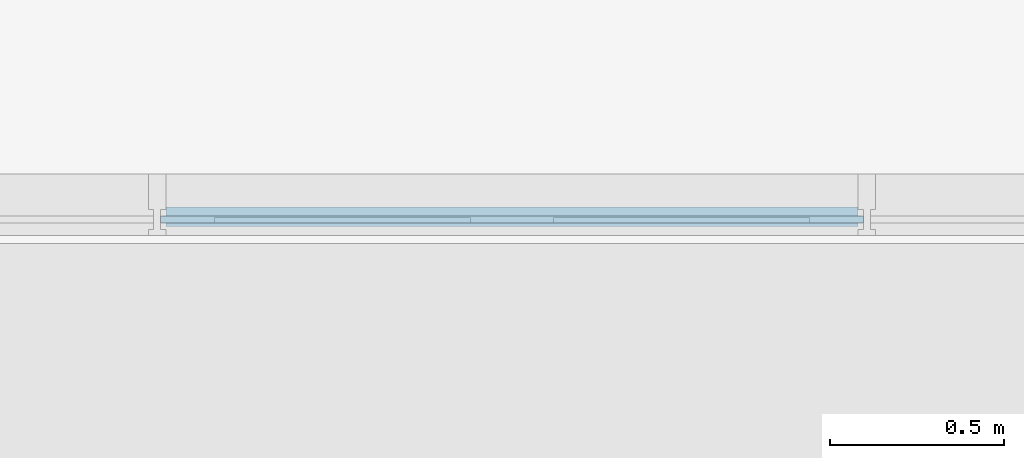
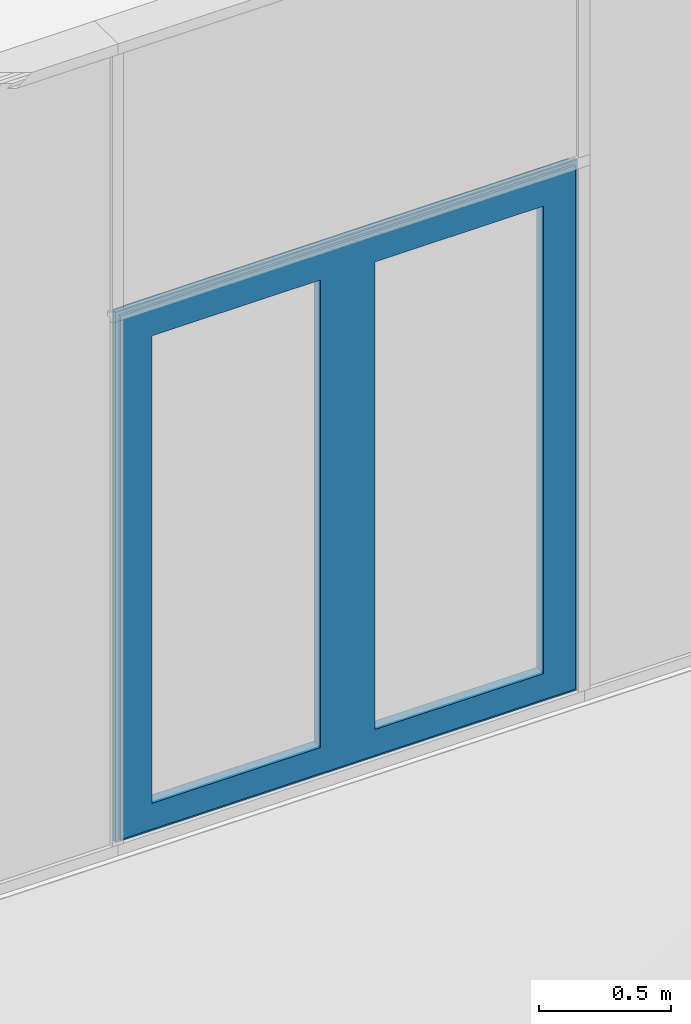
# One storey, part 31 of 69: 1 building element part, 2 elements without a shape of their own.
"""IFC2X3 building model written with IfcOpenShell, lengths in millimetres."""

from ifc_helpers import new_model, entity, si_unit, converted_unit, derived_unit, money_unit, direction, frame, origin_with_axes, place, context, subcontext, project, spatial, faceted_brep, material, type_object, element, aggregate, save


model = new_model("IFC2X3")

# Units and contexts
model_context = context("Model", 3, precision=0.01, world=origin_with_axes(), true_north=direction((0.0, 1.0)))
body_context = subcontext(model_context, "Body", "Model", "MODEL_VIEW")
ifc_project = project(units=[si_unit("LENGTHUNIT", "METRE", prefix="MILLI"), si_unit("AREAUNIT", "SQUARE_METRE"), si_unit("VOLUMEUNIT", "CUBIC_METRE"), converted_unit("PLANEANGLEUNIT", "DEGREE", entity("IfcPlaneAngleMeasure", 0.0174532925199), si_unit("PLANEANGLEUNIT", "RADIAN"), dimensions=[0, 0, 0, 0, 0, 0, 0]), si_unit("SOLIDANGLEUNIT", "STERADIAN"), money_unit("EUR"), converted_unit("TIMEUNIT", "Year", entity("IfcTimeMeasure", 31556926.0), si_unit("TIMEUNIT", "SECOND"), dimensions=[0, 0, 1, 0, 0, 0, 0]), si_unit("MASSUNIT", "GRAM", prefix="KILO"), si_unit("THERMODYNAMICTEMPERATUREUNIT", "DEGREE_CELSIUS"), si_unit("LUMINOUSINTENSITYUNIT", "LUMEN"), si_unit("ENERGYUNIT", "JOULE", prefix="MEGA"), derived_unit("THERMALCONDUCTANCEUNIT", [(si_unit("POWERUNIT", "WATT"), 1), (si_unit("LENGTHUNIT", "METRE"), -1), (si_unit("THERMODYNAMICTEMPERATUREUNIT", "KELVIN"), -1)]), derived_unit("SPECIFICHEATCAPACITYUNIT", [(si_unit("ENERGYUNIT", "JOULE"), 1), (si_unit("MASSUNIT", "GRAM", prefix="KILO"), -1), (si_unit("THERMODYNAMICTEMPERATUREUNIT", "KELVIN"), -1)]), derived_unit("MASSDENSITYUNIT", [(si_unit("MASSUNIT", "GRAM", prefix="KILO"), 1), (si_unit("VOLUMEUNIT", "CUBIC_METRE"), -1)])], contexts=[model_context])

# Site, building, storey
site_placement = place(None, origin_with_axes())
site = spatial("IfcSite", under=ifc_project, at=site_placement, Name="Puškini 31, Narva", CompositionType="ELEMENT")
building_placement = place(site_placement, origin_with_axes())
building = spatial("IfcBuilding", under=site, at=building_placement, Name="Narva Riigigümnaasium", CompositionType="ELEMENT")
storey_placement = place(building_placement, origin_with_axes())
storey = spatial("IfcBuildingStorey", under=building, at=storey_placement, Name="1.korrus 0.00", CompositionType="ELEMENT", Elevation=0.0)

# Curtain wall, door, building element part
curtain_wall_type = type_object("IfcCurtainWallType", Name="Curtain Wall Type", PredefinedType="NOTDEFINED")
curtain_wall_placement = place(storey_placement, frame((52576.1999988, 149970.00001, 0.0), z_axis=(0.0, 0.0, 1.0), x_axis=(1.0, 0.0, 0.0)))
curtain_wall = element("IfcCurtainWall", 1, at=curtain_wall_placement, inside=storey, type_object=curtain_wall_type, Name="G-KLF-01c")
door_style = type_object("IfcDoorStyle", Name="2023 x 2455 x 20", ConstructionType="NOTDEFINED", OperationType="NOTDEFINED", ParameterTakesPrecedence=False, Sizeable=False)
door_placement = place(curtain_wall_placement, frame((-1838.70000175, 0.0, 1249.99998785), z_axis=(0.0, 0.0, 1.0), x_axis=(1.0, 0.0, 0.0)))
door = element("IfcDoor", 2, at=door_placement, type_object=door_style, Name="G-KLF-01-VU-01", ObjectType="DOOR")
aggregate(curtain_wall, [door])
ifc_material = material(Name="ET-04_Alumiinium")
building_element_part_placement = place(door_placement, origin_with_axes())
building_element_part = element("IfcBuildingElementPart", 3, at=building_element_part_placement, material=ifc_material, Name="ET-04_Alumiinium", context=body_context, shape_type="Brep", body=[
    faceted_brep([(-996.500003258, 35.0, -1199.99998834), (-996.500003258, 30.0, -1199.99998834), (-996.500003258, 30.0, 1224.99998809), (-996.500003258, 35.0, 1224.99998809), (-951.500003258, 35.0, -1199.99998834), (-951.500003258, 30.0, -1199.99998834), (-951.500003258, 30.0, 1179.99998809), (-951.500003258, 35.0, 1179.99998809)], [[[0, 1, 2, 3]], [[4, 5, 1, 0]], [[1, 5, 6, 2]], [[3, 2, 6, 7]], [[0, 3, 7, 4]], [[7, 6, 5, 4]]]),
    faceted_brep([(996.500001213, 35.0, 1224.99998809), (996.500001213, 30.0, 1224.99998809), (951.500001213, 30.0, 1179.99998809), (951.500001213, 35.0, 1179.99998809), (-996.500003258, 35.0, 1224.99998809), (-996.500003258, 30.0, 1224.99998809), (-951.500003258, 30.0, 1179.99998809), (-951.500003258, 35.0, 1179.99998809)], [[[0, 1, 2, 3]], [[4, 5, 1, 0]], [[1, 5, 6, 2]], [[3, 2, 6, 7]], [[0, 3, 7, 4]], [[7, 6, 5, 4]]]),
    faceted_brep([(996.500001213, 35.0, -1199.99998834), (996.500001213, 30.0, -1199.99998834), (951.500001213, 30.0, -1199.99998834), (951.500001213, 35.0, -1199.99998834), (996.500001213, 35.0, 1224.99998809), (996.500001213, 30.0, 1224.99998809), (951.500001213, 30.0, 1179.99998809), (951.500001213, 35.0, 1179.99998809)], [[[0, 1, 2, 3]], [[4, 5, 1, 0]], [[1, 5, 6, 2]], [[3, 2, 6, 7]], [[0, 3, 7, 4]], [[7, 6, 5, 4]]]),
    faceted_brep([(-996.500003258, 30.0, -1199.99998834), (-996.500003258, -20.0, -1199.99998834), (-996.500003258, -20.0, 1224.99998809), (-996.500003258, 30.0, 1224.99998809), (-976.500003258, 30.0, -1199.99998834), (-976.500003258, -20.0, -1199.99998834), (-976.500003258, -20.0, 1204.99998809), (-976.500003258, 30.0, 1204.99998809)], [[[0, 1, 2, 3]], [[4, 5, 1, 0]], [[1, 5, 6, 2]], [[3, 2, 6, 7]], [[0, 3, 7, 4]], [[7, 6, 5, 4]]]),
    faceted_brep([(996.500001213, 30.0, 1224.99998809), (996.500001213, -20.0, 1224.99998809), (976.500001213, -20.0, 1204.99998809), (976.500001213, 30.0, 1204.99998809), (-996.500003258, 30.0, 1224.99998809), (-996.500003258, -20.0, 1224.99998809), (-976.500003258, -20.0, 1204.99998809), (-976.500003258, 30.0, 1204.99998809)], [[[0, 1, 2, 3]], [[4, 5, 1, 0]], [[1, 5, 6, 2]], [[3, 2, 6, 7]], [[0, 3, 7, 4]], [[7, 6, 5, 4]]]),
    faceted_brep([(996.500001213, 30.0, -1199.99998834), (996.500001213, -20.0, -1199.99998834), (976.500001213, -20.0, -1199.99998834), (976.500001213, 30.0, -1199.99998834), (996.500001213, 30.0, 1224.99998809), (996.500001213, -20.0, 1224.99998809), (976.500001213, -20.0, 1204.99998809), (976.500001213, 30.0, 1204.99998809)], [[[0, 1, 2, 3]], [[4, 5, 1, 0]], [[1, 5, 6, 2]], [[3, 2, 6, 7]], [[0, 3, 7, 4]], [[7, 6, 5, 4]]]),
    faceted_brep([(1011.50000852, 9.99999999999, -1214.99999564), (1011.50000852, -9.99999999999, -1214.99999564), (-1011.50001056, -9.99999999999, -1214.99999564), (-1011.50001056, 9.99999999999, -1214.99999564), (996.500001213, 9.99999999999, -1199.99998834), (996.500001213, -9.99999999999, -1199.99998834), (-996.500003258, -9.99999999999, -1199.99998834), (-996.500003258, 9.99999999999, -1199.99998834)], [[[0, 1, 2, 3]], [[4, 5, 1, 0]], [[1, 5, 6, 2]], [[3, 2, 6, 7]], [[0, 3, 7, 4]], [[7, 6, 5, 4]]]),
    faceted_brep([(-1011.50001056, 9.99999999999, -1214.99999564), (-1011.50001056, -9.99999999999, -1214.99999564), (-1011.50001056, -9.99999999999, 1239.9999954), (-1011.50001056, 9.99999999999, 1239.9999954), (-996.500003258, 9.99999999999, -1199.99998834), (-996.500003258, -9.99999999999, -1199.99998834), (-996.500003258, -9.99999999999, 1224.99998809), (-996.500003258, 9.99999999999, 1224.99998809)], [[[0, 1, 2, 3]], [[4, 5, 1, 0]], [[1, 5, 6, 2]], [[3, 2, 6, 7]], [[0, 3, 7, 4]], [[7, 6, 5, 4]]]),
    faceted_brep([(-1011.50001056, 9.99999999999, 1239.9999954), (-1011.50001056, -9.99999999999, 1239.9999954), (1011.50000852, -9.99999999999, 1239.9999954), (1011.50000852, 9.99999999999, 1239.9999954), (-996.500003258, 9.99999999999, 1224.99998809), (-996.500003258, -9.99999999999, 1224.99998809), (996.500001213, -9.99999999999, 1224.99998809), (996.500001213, 9.99999999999, 1224.99998809)], [[[0, 1, 2, 3]], [[4, 5, 1, 0]], [[1, 5, 6, 2]], [[3, 2, 6, 7]], [[0, 3, 7, 4]], [[7, 6, 5, 4]]]),
    faceted_brep([(1011.50000852, 9.99999999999, 1239.9999954), (1011.50000852, -9.99999999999, 1239.9999954), (1011.50000852, -9.99999999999, -1214.99999564), (1011.50000852, 9.99999999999, -1214.99999564), (996.500001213, 9.99999999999, 1224.99998809), (996.500001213, -9.99999999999, 1224.99998809), (996.500001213, -9.99999999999, -1199.99998834), (996.500001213, 9.99999999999, -1199.99998834)], [[[0, 1, 2, 3]], [[4, 5, 1, 0]], [[1, 5, 6, 2]], [[3, 2, 6, 7]], [[0, 3, 7, 4]], [[7, 6, 5, 4]]]),
    faceted_brep([(856.500001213, 30.0, -1079.99998834), (856.500001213, -20.0, -1079.99998834), (856.500001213, -20.0, 1084.99998809), (856.500001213, 30.0, 1084.99998809), (976.500001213, 30.0, -1199.99998834), (976.500001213, -20.0, -1199.99998834), (976.500001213, -20.0, 1204.99998809), (976.500001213, 30.0, 1204.99998809)], [[[0, 1, 2, 3]], [[4, 5, 1, 0]], [[1, 5, 6, 2]], [[3, 2, 6, 7]], [[0, 3, 7, 4]], [[7, 6, 5, 4]]]),
    faceted_brep([(-1.02247099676e-06, 30.0, -1199.99998834), (-1.02247099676e-06, -20.0, -1199.99998834), (-1.02247099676e-06, -20.0, 1204.99998809), (-1.02247099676e-06, 30.0, 1204.99998809), (119.999998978, 30.0, -1079.99998834), (119.999998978, -20.0, -1079.99998834), (119.999998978, -20.0, 1084.99998809), (119.999998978, 30.0, 1084.99998809)], [[[0, 1, 2, 3]], [[4, 5, 1, 0]], [[1, 5, 6, 2]], [[3, 2, 6, 7]], [[0, 3, 7, 4]], [[7, 6, 5, 4]]]),
    faceted_brep([(-1.02247099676e-06, 30.0, -1199.99998834), (-1.02247099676e-06, -20.0, -1199.99998834), (119.999998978, -20.0, -1079.99998834), (119.999998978, 30.0, -1079.99998834), (976.500001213, 30.0, -1199.99998834), (976.500001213, -20.0, -1199.99998834), (856.500001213, -20.0, -1079.99998834), (856.500001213, 30.0, -1079.99998834)], [[[0, 1, 2, 3]], [[4, 5, 1, 0]], [[1, 5, 6, 2]], [[3, 2, 6, 7]], [[0, 3, 7, 4]], [[7, 6, 5, 4]]]),
    faceted_brep([(976.500001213, 30.0, 1204.99998809), (976.500001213, -20.0, 1204.99998809), (856.500001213, -20.0, 1084.99998809), (856.500001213, 30.0, 1084.99998809), (-1.02247099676e-06, 30.0, 1204.99998809), (-1.02247099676e-06, -20.0, 1204.99998809), (119.999998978, -20.0, 1084.99998809), (119.999998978, 30.0, 1084.99998809)], [[[0, 1, 2, 3]], [[4, 5, 1, 0]], [[1, 5, 6, 2]], [[3, 2, 6, 7]], [[0, 3, 7, 4]], [[7, 6, 5, 4]]]),
    faceted_brep([(-120.000001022, 30.0, -1079.99998834), (-120.000001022, -20.0, -1079.99998834), (-120.000001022, -20.0, 1084.99998809), (-120.000001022, 30.0, 1084.99998809), (-1.02247099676e-06, 30.0, -1199.99998834), (-1.02247099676e-06, -20.0, -1199.99998834), (-1.02247099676e-06, -20.0, 1204.99998809), (-1.02247099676e-06, 30.0, 1204.99998809)], [[[0, 1, 2, 3]], [[4, 5, 1, 0]], [[1, 5, 6, 2]], [[3, 2, 6, 7]], [[0, 3, 7, 4]], [[7, 6, 5, 4]]]),
    faceted_brep([(-976.500003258, 30.0, -1199.99998834), (-976.500003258, -20.0, -1199.99998834), (-976.500003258, -20.0, 1204.99998809), (-976.500003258, 30.0, 1204.99998809), (-856.500003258, 30.0, -1079.99998834), (-856.500003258, -20.0, -1079.99998834), (-856.500003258, -20.0, 1084.99998809), (-856.500003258, 30.0, 1084.99998809)], [[[0, 1, 2, 3]], [[4, 5, 1, 0]], [[1, 5, 6, 2]], [[3, 2, 6, 7]], [[0, 3, 7, 4]], [[7, 6, 5, 4]]]),
    faceted_brep([(-976.500003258, 30.0, -1199.99998834), (-976.500003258, -20.0, -1199.99998834), (-856.500003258, -20.0, -1079.99998834), (-856.500003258, 30.0, -1079.99998834), (-1.02247099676e-06, 30.0, -1199.99998834), (-1.02247099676e-06, -20.0, -1199.99998834), (-120.000001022, -20.0, -1079.99998834), (-120.000001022, 30.0, -1079.99998834)], [[[0, 1, 2, 3]], [[4, 5, 1, 0]], [[1, 5, 6, 2]], [[3, 2, 6, 7]], [[0, 3, 7, 4]], [[7, 6, 5, 4]]]),
    faceted_brep([(-1.02247099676e-06, 30.0, 1204.99998809), (-1.02247099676e-06, -20.0, 1204.99998809), (-120.000001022, -20.0, 1084.99998809), (-120.000001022, 30.0, 1084.99998809), (-976.500003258, 30.0, 1204.99998809), (-976.500003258, -20.0, 1204.99998809), (-856.500003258, -20.0, 1084.99998809), (-856.500003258, 30.0, 1084.99998809)], [[[0, 1, 2, 3]], [[4, 5, 1, 0]], [[1, 5, 6, 2]], [[3, 2, 6, 7]], [[0, 3, 7, 4]], [[7, 6, 5, 4]]]),
])
aggregate(door, [building_element_part])

save(model, "model.ifc")
